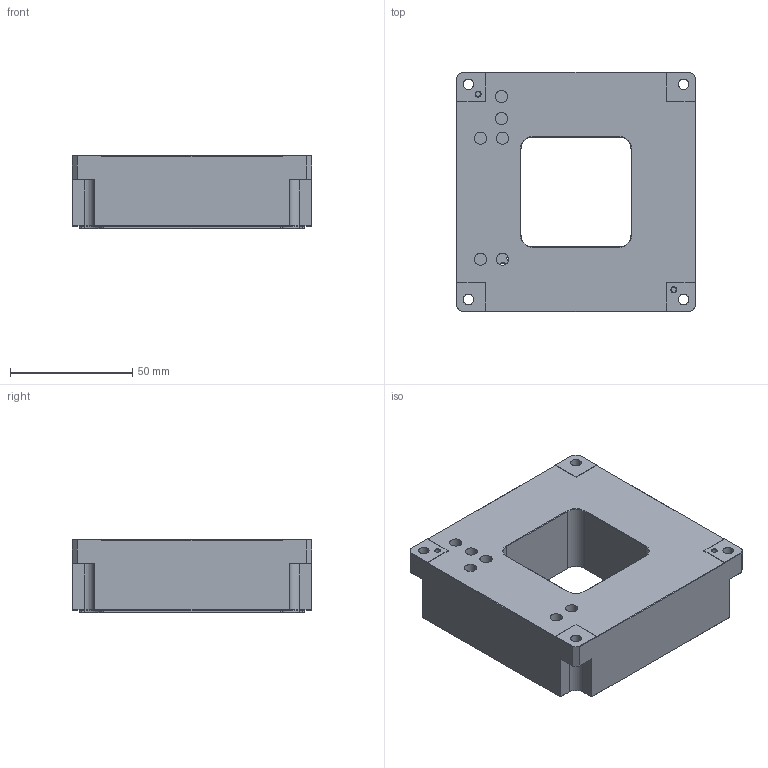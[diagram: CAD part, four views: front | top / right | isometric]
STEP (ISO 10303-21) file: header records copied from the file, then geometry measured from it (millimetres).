
FILE_DESCRIPTION (( 'STEP AP203' ), '1' );
FILE_NAME ('P12A.XY200Z100-B1压电平移台外形尺寸图-22.09.13.STEP', '2022-09-13T02:18:46', ( '' ), ( '' ), 'SwSTEP 2.0', 'SolidWorks 2016', '' );
FILE_SCHEMA (( 'CONFIG_CONTROL_DESIGN' ));
Length unit declared in the file: millimetre
Products named in the file (1): P12A.XY200Z100-B1压电平移台外形尺寸图-22.09.13
Bounding box: 98 x 98 x 30 mm (x, y, z)
Surface area: 41798.9 mm2 (no closed solid volume)
Topology: 0 solids, 4 shells, 273 faces, 720 edges, 442 vertices
Faces by surface type: plane 135, cylinder 94, cone 40, torus 4
Entity records: 8388 total; most frequent: DIRECTION 1506, CARTESIAN_POINT 1436, ORIENTED_EDGE 1296, EDGE_CURVE 720, AXIS2_PLACEMENT_3D 512, VECTOR 482, LINE 482, VERTEX_POINT 442
